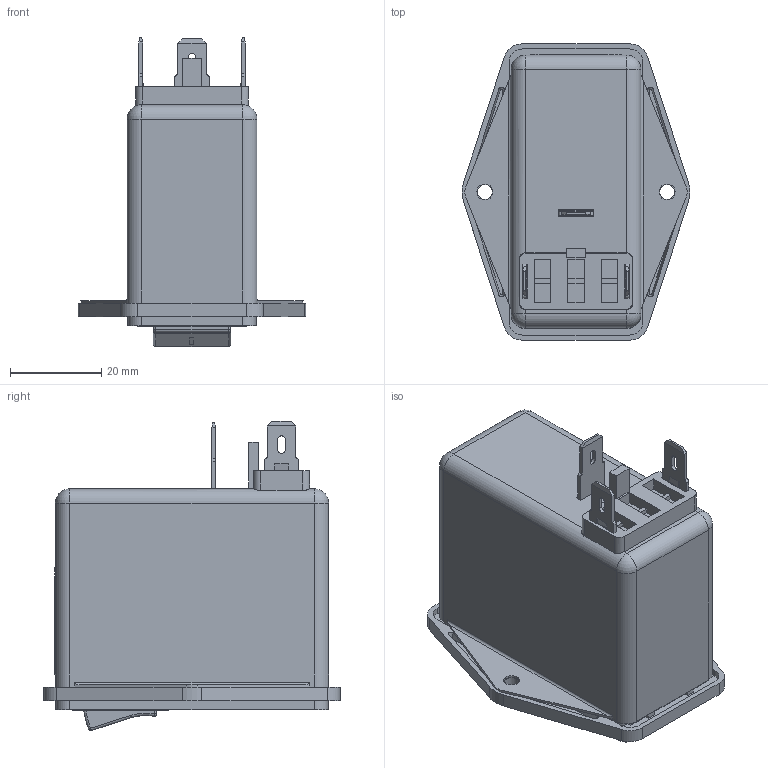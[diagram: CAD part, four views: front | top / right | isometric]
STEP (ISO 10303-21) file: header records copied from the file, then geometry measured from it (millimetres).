
FILE_DESCRIPTION((''),'2;1');
FILE_NAME('D:\_ PRODUCT\FN281-6\3D_simulation\FN284-xx-06_.stp','2012-10-24T10:19:02',('sayan.penton'),(''),'Autodesk Inventor 2010','Autodesk Inventor 2010','');
FILE_SCHEMA(('AUTOMOTIVE_DESIGN { 1 0 10303 214 1 1 1 1 }'));
Length unit declared in the file: millimetre
Products named in the file (1): Part6
Bounding box: 50 x 65 x 67.85 mm (x, y, z)
Volume: 33448.8 mm3; surface area: 47140.9 mm2
Topology: 4 solids, 4 shells, 1561 faces, 4445 edges, 2892 vertices
Faces by surface type: plane 1020, bspline 353, cylinder 160, cone 12, sphere 8, torus 8
Full cylindrical faces by diameter (mm): 1.1 x2, 1.2 x2, 1.5 x2, 2.135 x1, 3 x1, 3.134 x1, 3.3 x2, 3.5 x2, 4.7 x2, 5.3 x4
Entity records: 59921 total; most frequent: CARTESIAN_POINT 19027, ORIENTED_EDGE 8814, DIRECTION 6946, EDGE_CURVE 4407, VECTOR 3678, LINE 3678, VERTEX_POINT 2883, EDGE_LOOP 1708
